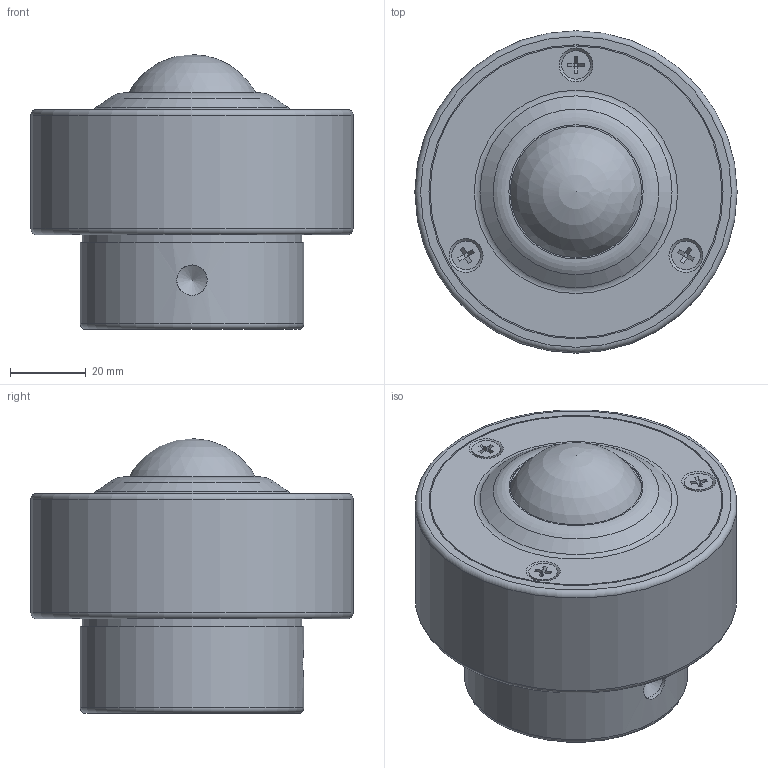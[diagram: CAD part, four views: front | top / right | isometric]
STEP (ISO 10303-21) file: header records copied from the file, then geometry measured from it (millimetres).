
FILE_DESCRIPTION(/* description */ (''),/* implementation_level */ '2;1');
FILE_NAME(/* name */ 'Z:\80-CAD共有ファイル\製品3D\X2\30C730FC30BF\X0\\21-S\S-38.stp',/* time_stamp */ '2015-01-06T16:06:20+09:00',/* author */ ('yamaki'),/* organization */ (''),/* preprocessor_version */ 'ST-DEVELOPER v15.6',/* originating_system */ 'Autodesk Inventor 2015',/* authorisation */ '');
FILE_SCHEMA (('AUTOMOTIVE_DESIGN { 1 0 10303 214 3 1 1 }'));
Length unit declared in the file: millimetre
Products named in the file (3): 2138AT-01; 3810; 2138AT
Bounding box: 85 x 85 x 72.5 mm (x, y, z)
Volume: 266980.8 mm3; surface area: 32910 mm2
Topology: 2 solids, 2 shells, 73 faces, 149 edges, 89 vertices
Faces by surface type: plane 50, cylinder 10, cone 6, torus 5, sphere 2
Full cylindrical faces by diameter (mm): 7.53 x3, 8 x1, 34.653 x1, 58 x1, 59 x1, 77 x1, 77.6 x1, 85 x1
Entity records: 1826 total; most frequent: CARTESIAN_POINT 311, DIRECTION 302, ORIENTED_EDGE 234, EDGE_CURVE 117, AXIS2_PLACEMENT_3D 109, EDGE_LOOP 106, LINE 84, VECTOR 84
